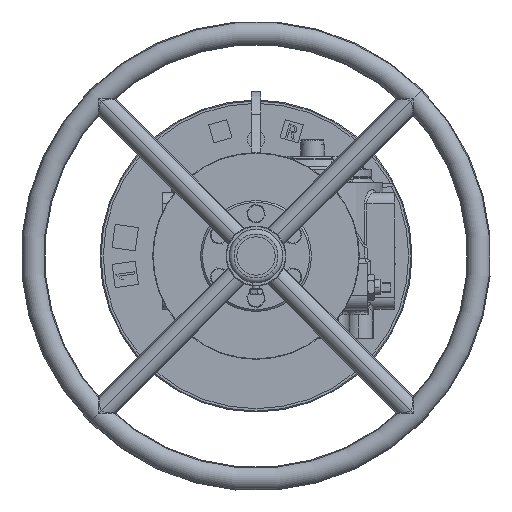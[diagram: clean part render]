
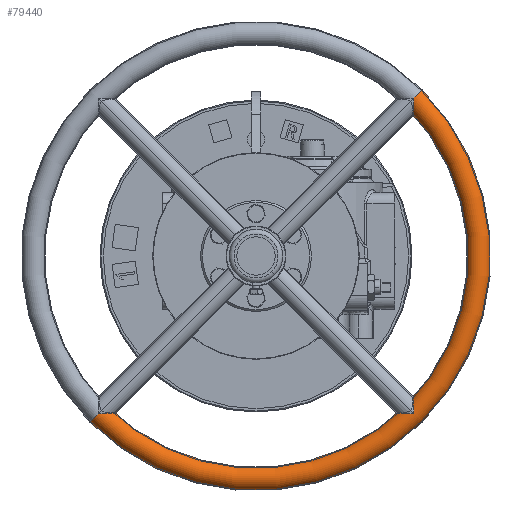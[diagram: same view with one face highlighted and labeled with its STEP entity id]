
A CAD part, left-side view. The second image highlights one B-rep face of the part: STEP entity #79440.
In plain terms, the highlighted toroidal (fillet/blend) face has major radius 237.5 mm and minor radius 12.5 mm.
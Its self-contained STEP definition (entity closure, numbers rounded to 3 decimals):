
#2562 = DIRECTION ( 'NONE',  ( 0., 0.707, 0.707 ) ) ;
#4598 = EDGE_CURVE ( 'NONE', #74377, #83392, #26828, .T. ) ;
#6357 = ORIENTED_EDGE ( 'NONE', *, *, #53835, .F. ) ;
#10403 = DIRECTION ( 'NONE',  ( 0., -0.707, 0.707 ) ) ;
#11210 = FACE_OUTER_BOUND ( 'NONE', #84782, .T. ) ;
#17063 = VERTEX_POINT ( 'NONE', #41160 ) ;
#19296 = CARTESIAN_POINT ( 'NONE',  ( -920.7, -145.438, 225.438 ) ) ;
#22329 = CARTESIAN_POINT ( 'NONE',  ( -920.7, 22.5, 57.5 ) ) ;
#24467 = CARTESIAN_POINT ( 'NONE',  ( -920.7, -154.277, 234.277 ) ) ;
#25322 = CARTESIAN_POINT ( 'NONE',  ( -920.7, 22.5, 57.5 ) ) ;
#26828 = CIRCLE ( 'NONE', #85237, 12.5 ) ;
#28437 = DIRECTION ( 'NONE',  ( 0., 0.707, -0.707 ) ) ;
#36617 = ORIENTED_EDGE ( 'NONE', *, *, #43186, .T. ) ;
#37400 = CARTESIAN_POINT ( 'NONE',  ( -920.7, 199.277, -119.277 ) ) ;
#41155 = CIRCLE ( 'NONE', #99585, 225. ) ;
#41160 = CARTESIAN_POINT ( 'NONE',  ( -920.7, -136.599, 216.599 ) ) ;
#43186 = EDGE_CURVE ( 'NONE', #17063, #74377, #41155, .T. ) ;
#43575 = CIRCLE ( 'NONE', #68569, 12.5 ) ;
#43598 = AXIS2_PLACEMENT_3D ( 'NONE', #22329, #61014, #76182 ) ;
#46421 = CARTESIAN_POINT ( 'NONE',  ( -920.7, 181.599, -101.599 ) ) ;
#48340 = DIRECTION ( 'NONE',  ( 0., 0., -1. ) ) ;
#53835 = EDGE_CURVE ( 'NONE', #77334, #83392, #81990, .T. ) ;
#56663 = AXIS2_PLACEMENT_3D ( 'NONE', #57712, #89601, #83338 ) ;
#57164 = DIRECTION ( 'NONE',  ( 1., 0., 0. ) ) ;
#57712 = CARTESIAN_POINT ( 'NONE',  ( -920.7, 22.5, 57.5 ) ) ;
#59254 = DIRECTION ( 'NONE',  ( 0., -0.707, -0.707 ) ) ;
#61014 = DIRECTION ( 'NONE',  ( 1., 0., 0. ) ) ;
#68569 = AXIS2_PLACEMENT_3D ( 'NONE', #19296, #2562, #10403 ) ;
#74377 = VERTEX_POINT ( 'NONE', #46421 ) ;
#76182 = DIRECTION ( 'NONE',  ( 0., 0., -1. ) ) ;
#77200 = ORIENTED_EDGE ( 'NONE', *, *, #98176, .F. ) ;
#77334 = VERTEX_POINT ( 'NONE', #24467 ) ;
#79440 = ADVANCED_FACE ( 'NONE', ( #11210 ), #83407, .T. ) ;
#80512 = ORIENTED_EDGE ( 'NONE', *, *, #4598, .T. ) ;
#81990 = CIRCLE ( 'NONE', #43598, 250. ) ;
#83338 = DIRECTION ( 'NONE',  ( 0., -0.707, 0.707 ) ) ;
#83392 = VERTEX_POINT ( 'NONE', #37400 ) ;
#83407 = TOROIDAL_SURFACE ( 'NONE', #56663, 237.5, 12.5 ) ;
#84782 = EDGE_LOOP ( 'NONE', ( #6357, #77200, #36617, #80512 ) ) ;
#85237 = AXIS2_PLACEMENT_3D ( 'NONE', #93203, #59254, #28437 ) ;
#89601 = DIRECTION ( 'NONE',  ( 1., 0., 0. ) ) ;
#93203 = CARTESIAN_POINT ( 'NONE',  ( -920.7, 190.438, -110.438 ) ) ;
#98176 = EDGE_CURVE ( 'NONE', #17063, #77334, #43575, .T. ) ;
#99585 = AXIS2_PLACEMENT_3D ( 'NONE', #25322, #57164, #48340 ) ;
